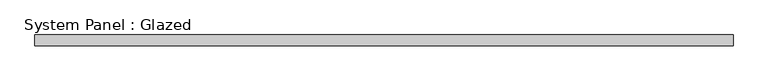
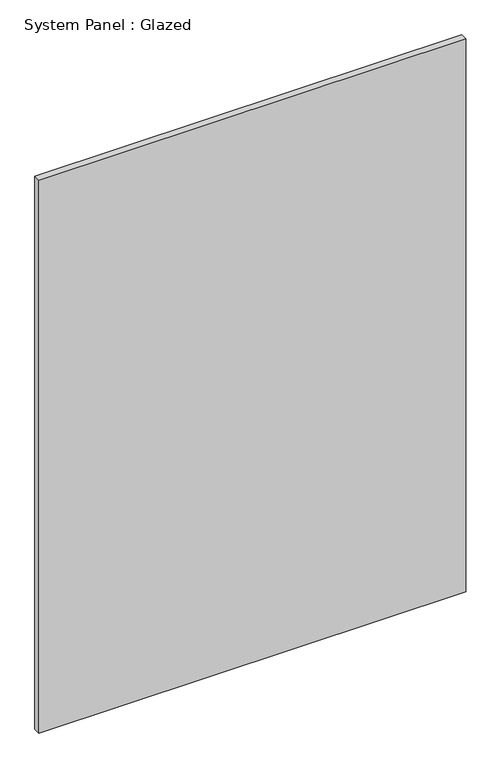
"""IFC4 building model written with IfcOpenShell, lengths in millimetres: plate geometry, System Panel : Glazed."""

from ifc_helpers import new_model, si_unit, origin, origin_with_axes, place, context, project, spatial, polyline, outline, extrude, source, transform, mapped, element, save


def system_panel_glazed_18425fd7(model_context):
    return source(origin(), model_context, "Body", "SweptSolid", [
        extrude(outline(polyline([(812.5, 24.5), (-812.5, 24.5), (-812.5, 49.5), (812.5, 49.5), (812.5, 24.5)])), origin_with_axes(), (0.0, 0.0, 1.0), 2225.0),
    ])


if __name__ == "__main__":
    model = new_model("IFC4")
    model_context = context("Model", 3, world=origin())
    ifc_project = project(units=[si_unit("LENGTHUNIT", "METRE", prefix="MILLI")], contexts=[model_context])
    site = spatial("IfcSite", under=ifc_project)
    building = spatial("IfcBuilding", under=site)
    placement = place(None, origin())
    system_panel_glazed_shape = system_panel_glazed_18425fd7(model_context)
    element("IfcPlate", 1, ObjectType="System Panel : Glazed", at=placement, inside=building, context=model_context, shape_type="MappedRepresentation", body=[
        mapped(system_panel_glazed_shape, transform((0.0, 0.0, 0.0), x_axis=(1.0, 0.0, 0.0), y_axis=(0.0, 1.0, 0.0), z_axis=(0.0, 0.0, 1.0))),
    ])
    save(model, "model.ifc")
